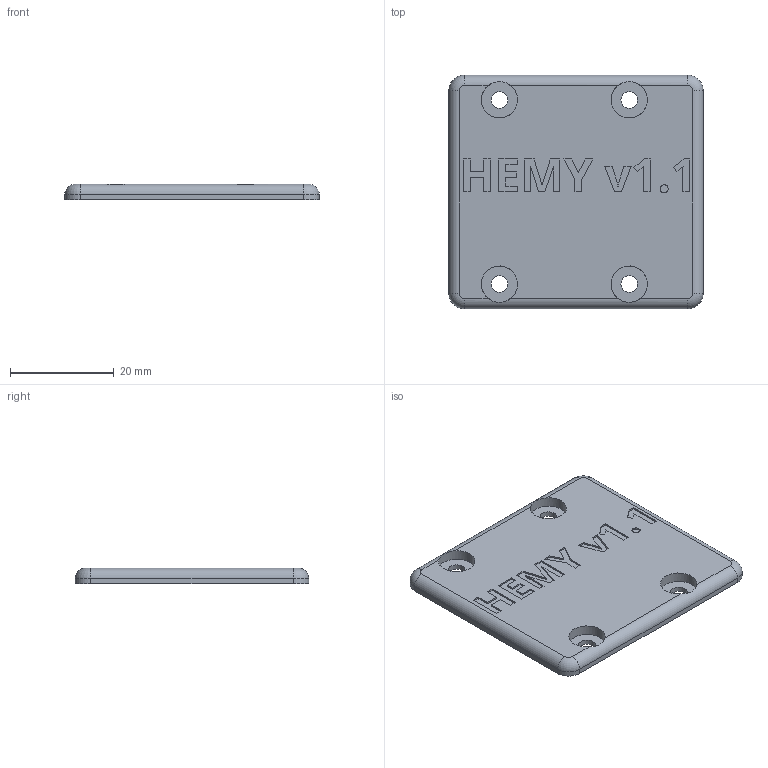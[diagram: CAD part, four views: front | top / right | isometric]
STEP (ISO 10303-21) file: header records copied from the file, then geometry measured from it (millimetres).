
FILE_DESCRIPTION(/* description */ ('STEP AP242','CAx-IF Rec.Pracs.---Representation and Presentation of Product Manufacturing Information (PMI)---4.0---2014-10-13','CAx-IF Rec.Pracs.---3D Tessellated Geometry---0.4---2014-09-14','2;1'),/* implementation_level */ '2;1');
FILE_NAME(/* name */ '67516f6bfb67772fa30a8cc2',/* time_stamp */ '2024-12-05T09:16:28Z',/* author */ (''),/* organization */ (''),/* preprocessor_version */ 'ST-DEVELOPER v20',/* originating_system */ 'ONSHAPE BY PTC INC, 1.190',/* authorisation */ ' ');
FILE_SCHEMA (('AP242_MANAGED_MODEL_BASED_3D_ENGINEERING_MIM_LF { 1 0 10303 442 1 1 4 }'));
Length unit declared in the file: metre
Products named in the file (1): I3D04 - Antenna Cover
Bounding box: 49 x 45 x 3 mm (x, y, z)
Volume: 3723.7 mm3; surface area: 5279.4 mm2
Topology: 1 solids, 1 shells, 133 faces, 358 edges, 236 vertices
Faces by surface type: plane 98, cylinder 20, bspline 11, torus 4
Full cylindrical faces by diameter (mm): 3.2 x4, 7 x4
Entity records: 4126 total; most frequent: CARTESIAN_POINT 849, ORIENTED_EDGE 692, DIRECTION 610, EDGE_CURVE 346, LINE 276, VECTOR 276, VERTEX_POINT 232, AXIS2_PLACEMENT_3D 167
